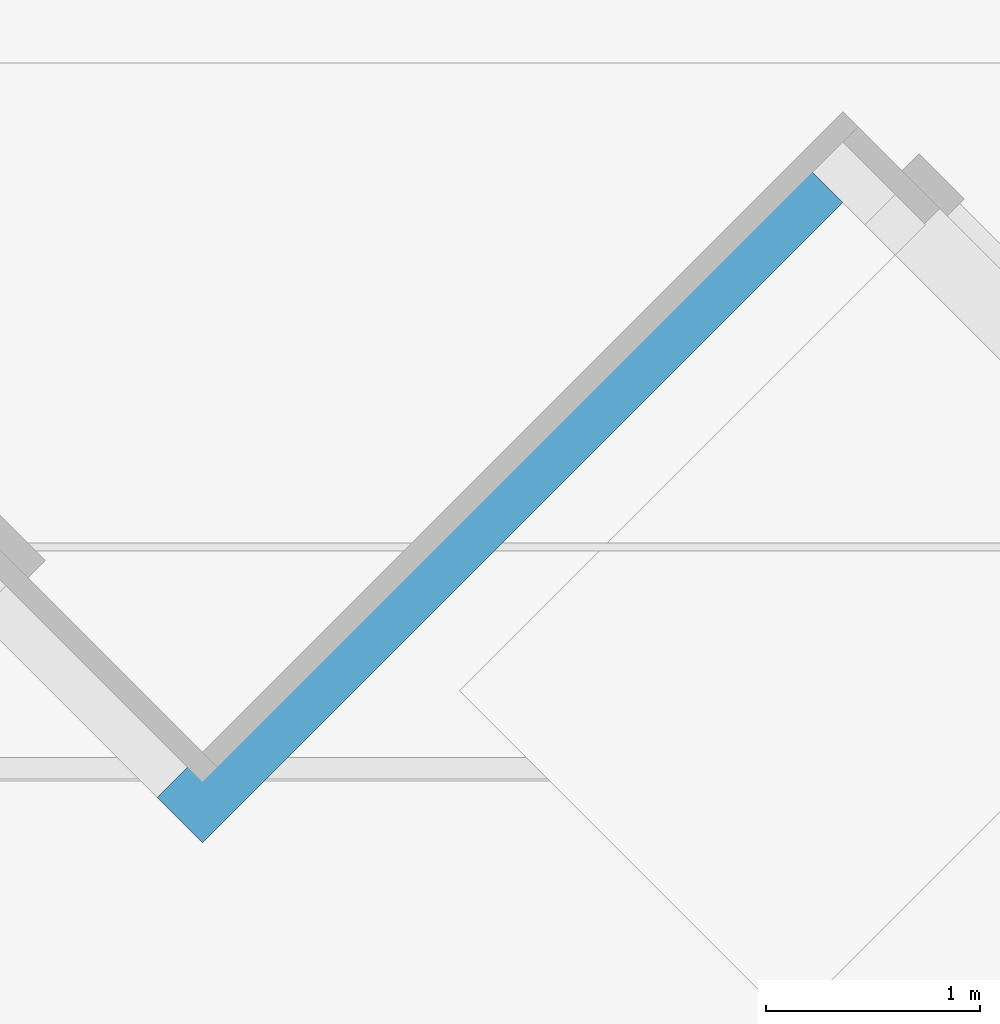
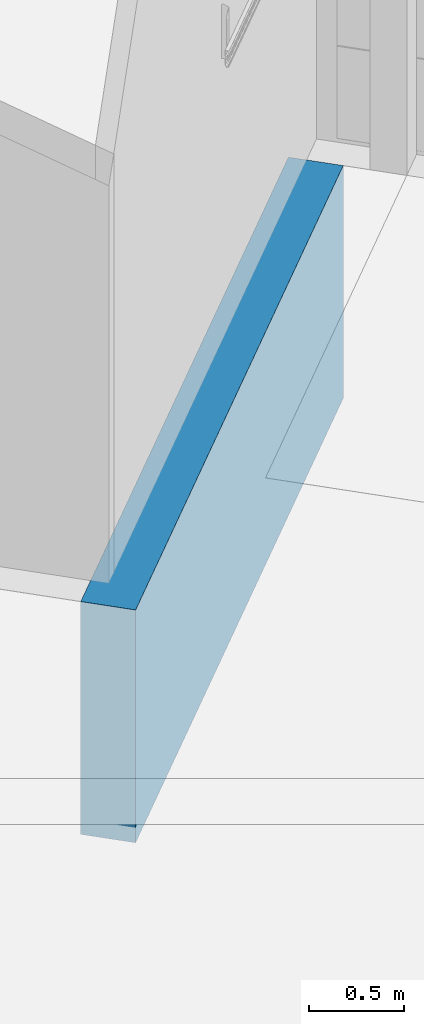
# One storey, part 41 of 64: 1 wall.
"""IFC2X3 building model written with IfcOpenShell, lengths in millimetres."""

from ifc_helpers import new_model, entity, si_unit, converted_unit, derived_unit, direction, frame, frame_2d, origin, place, context, subcontext, project, spatial, rectangle, extrude, material, layer, layer_set, layer_usage, type_object, element, save


model = new_model("IFC2X3")

# Units and contexts
model_context = context("Model", 3, precision=0.01, world=origin(), true_north=direction((4.05803320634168e-15, -1.0)))
body_context = subcontext(model_context, "Body", "Model", "MODEL_VIEW")
ifc_project = project(units=[si_unit("LENGTHUNIT", "METRE", prefix="MILLI"), si_unit("AREAUNIT", "SQUARE_METRE"), si_unit("VOLUMEUNIT", "CUBIC_METRE"), converted_unit("PLANEANGLEUNIT", "DEGREE", entity("IfcRatioMeasure", 0.0174532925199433), si_unit("PLANEANGLEUNIT", "RADIAN"), dimensions=[0, 0, 0, 0, 0, 0, 0]), si_unit("MASSUNIT", "GRAM", prefix="KILO"), derived_unit("MASSDENSITYUNIT", [(si_unit("MASSUNIT", "GRAM", prefix="KILO"), 1), (si_unit("LENGTHUNIT", "METRE"), -3)]), si_unit("TIMEUNIT", "SECOND"), si_unit("FREQUENCYUNIT", "HERTZ"), si_unit("THERMODYNAMICTEMPERATUREUNIT", "DEGREE_CELSIUS"), derived_unit("THERMALTRANSMITTANCEUNIT", [(si_unit("MASSUNIT", "GRAM", prefix="KILO"), 1), (si_unit("THERMODYNAMICTEMPERATUREUNIT", "KELVIN"), -1), (si_unit("TIMEUNIT", "SECOND"), -3)]), derived_unit("VOLUMETRICFLOWRATEUNIT", [(si_unit("LENGTHUNIT", "METRE"), 3), (si_unit("TIMEUNIT", "SECOND"), -1)]), si_unit("ELECTRICCURRENTUNIT", "AMPERE"), si_unit("ELECTRICVOLTAGEUNIT", "VOLT"), si_unit("POWERUNIT", "WATT"), si_unit("FORCEUNIT", "NEWTON", prefix="KILO"), si_unit("ILLUMINANCEUNIT", "LUX"), si_unit("LUMINOUSFLUXUNIT", "LUMEN"), si_unit("LUMINOUSINTENSITYUNIT", "CANDELA"), derived_unit("USERDEFINED", [(si_unit("MASSUNIT", "GRAM", prefix="KILO"), -1), (si_unit("LENGTHUNIT", "METRE"), -2), (si_unit("TIMEUNIT", "SECOND"), 3), (si_unit("LUMINOUSFLUXUNIT", "LUMEN"), 1)]), derived_unit("LINEARVELOCITYUNIT", [(si_unit("LENGTHUNIT", "METRE"), 1), (si_unit("TIMEUNIT", "SECOND"), -1)]), si_unit("PRESSUREUNIT", "PASCAL"), derived_unit("USERDEFINED", [(si_unit("LENGTHUNIT", "METRE"), -2), (si_unit("MASSUNIT", "GRAM", prefix="KILO"), 1), (si_unit("TIMEUNIT", "SECOND"), -2)])], contexts=[model_context])

# Site, building, storey
site_placement = place(None, frame((927466.849349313, 583801.882853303, 0.0), z_axis=(0.0, 0.0, 1.0), x_axis=(-1.0, 0.0, 0.0)))
site = spatial("IfcSite", under=ifc_project, at=site_placement, Name="Surface", CompositionType="ELEMENT")
building_placement = place(site_placement, origin())
building = spatial("IfcBuilding", under=site, at=building_placement, CompositionType="ELEMENT")
storey_placement = place(building_placement, frame((0.0, 0.0, 44170.0)))
storey = spatial("IfcBuildingStorey", under=building, at=storey_placement, Name="Ground FFL", CompositionType="ELEMENT", Elevation=44170.0)

# Wall
ifc_material = material(Name="conc bund")
ifc_layer = layer(ifc_material, 300.0)
ifc_layer_set = layer_set([ifc_layer], Name="Basic Wall:300 bund wall")
ifc_layer_usage = layer_usage(ifc_layer_set, "AXIS2", "POSITIVE", -150.0)
wall_type = type_object("IfcWallType", Name="Basic Wall:300 bund wall", PredefinedType="STANDARD", material=ifc_layer_set)
wall_placement = place(storey_placement, frame((-101891.693958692, -33356.1242200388, -1500.0), z_axis=(0.0, 0.0, 1.0), x_axis=(0.70710678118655, 0.707106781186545, 0.0)))
element("IfcWallStandardCase", 1, at=wall_placement, inside=storey, type_object=wall_type, material=ifc_layer_usage, Name="Basic Wall:300 bund wall", ObjectType="Basic Wall:300 bund wall", context=body_context, shape_type="SweptSolid", body=[
    extrude(rectangle(XDim=4232.26267936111, YDim=300.000000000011, at=frame_2d((2116.13133968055, 5.6843418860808e-13), x_axis=(-1.0, 0.0))), origin(), (0.0, 0.0, 1.0), 1500.00000000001),
])

save(model, "model.ifc")
